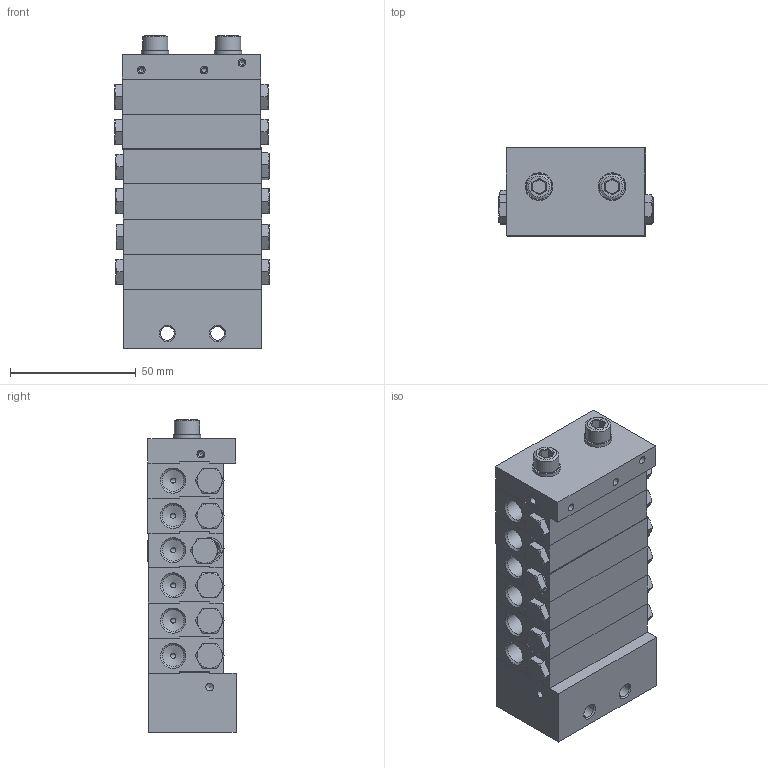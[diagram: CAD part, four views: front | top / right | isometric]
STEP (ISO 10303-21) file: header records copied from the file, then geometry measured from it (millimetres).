
FILE_DESCRIPTION (( 'STEP AP214' ), '1' );
FILE_NAME ('STW_XV_12_Auslässe.STEP', '2025-09-16T11:06:50', ( '' ), ( '' ), 'SwSTEP 2.0', 'SolidWorks 2022', '' );
FILE_SCHEMA (( 'AUTOMOTIVE_DESIGN' ));
Length unit declared in the file: millimetre
Products named in the file (10): M6X65_DIN_912; STW_XV_Kolbenanschlag; STW_XV_END; O_RING_3X1; STW_XV_12_Auslässe; STW_XV_Verbindungsstopen; Verschlussstopfen_1_8; U_Scheibe_6; STW_XV_ENGANG; STW_XV_MITTEL_1
Assembly tree (46 placements, depth 2):
  STW_XV_12_Auslässe
    STW_XV_ENGANG
    O_RING_3X1  x4
    STW_XV_MITTEL_1  x6
    STW_XV_END
    Verschlussstopfen_1_8  x12
    STW_XV_Kolbenanschlag  x12
    STW_XV_Verbindungsstopen  x6
    M6X65_DIN_912  x2
    U_Scheibe_6  x2
Bounding box: 61.32 x 35.03 x 124.48 mm (x, y, z)
Volume: 184715.8 mm3; surface area: 89523.9 mm2
Topology: 46 solids, 46 shells, 1803 faces, 4762 edges, 3052 vertices
Faces by surface type: plane 842, cylinder 490, cone 359, bspline 112
Full cylindrical faces by diameter (mm): 2 x161, 3 x13, 5 x65, 5.5 x2, 5.9 x2, 6 x2, 6.2 x14, 6.4 x2, 6.5 x12, 7 x12, 8 x12, 8.4 x6, 8.6 x30, 9 x13, 9.7 x12, 9.73 x6, 10 x14, 11 x2, 15 x1
Entity records: 29920 total; most frequent: CARTESIAN_POINT 17197, ORIENTED_EDGE 2526, DIRECTION 2089, EDGE_CURVE 1263, VERTEX_POINT 896, EDGE_LOOP 821, AXIS2_PLACEMENT_3D 709, VECTOR 671
